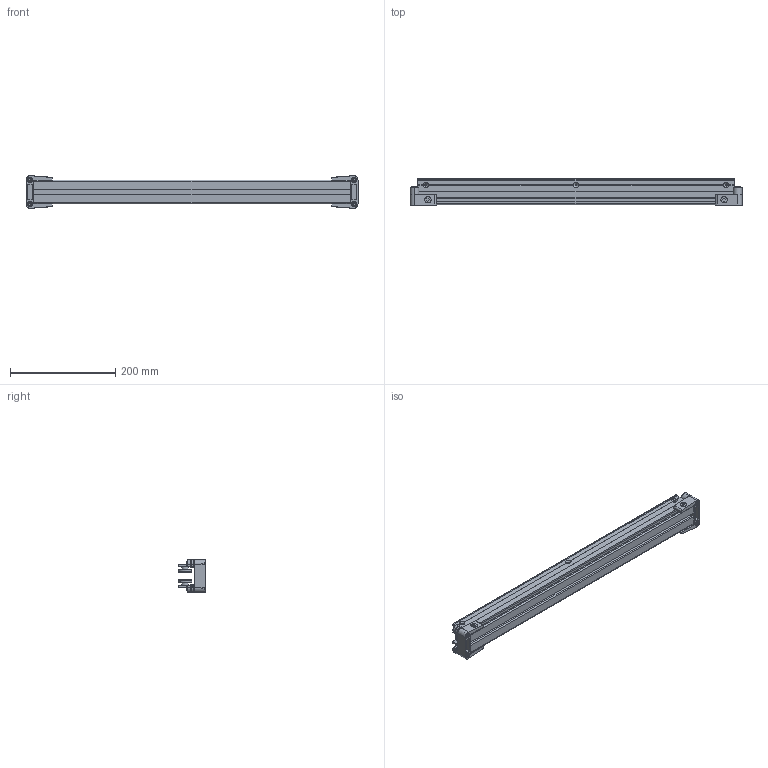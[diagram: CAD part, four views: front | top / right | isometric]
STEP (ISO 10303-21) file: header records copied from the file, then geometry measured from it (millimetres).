
FILE_DESCRIPTION (( 'STEP AP203' ), '1' );
FILE_NAME ('801.600.000.STEP', '2014-03-26T13:36:59', ( '' ), ( '' ), 'SwSTEP 2.0', 'SolidWorks 2012', '' );
FILE_SCHEMA (( 'CONFIG_CONTROL_DESIGN' ));
Length unit declared in the file: millimetre
Products named in the file (1): 801.600.000
Bounding box: 630 x 52.43 x 62 mm (x, y, z)
Surface area: 223838.4 mm2 (no closed solid volume)
Topology: 0 solids, 39 shells, 563 faces, 1462 edges, 960 vertices
Faces by surface type: plane 241, cylinder 146, cone 116, torus 60
Entity records: 17345 total; most frequent: CARTESIAN_POINT 3186, DIRECTION 3154, ORIENTED_EDGE 2616, EDGE_CURVE 1462, AXIS2_PLACEMENT_3D 1192, VERTEX_POINT 960, LINE 770, VECTOR 770
